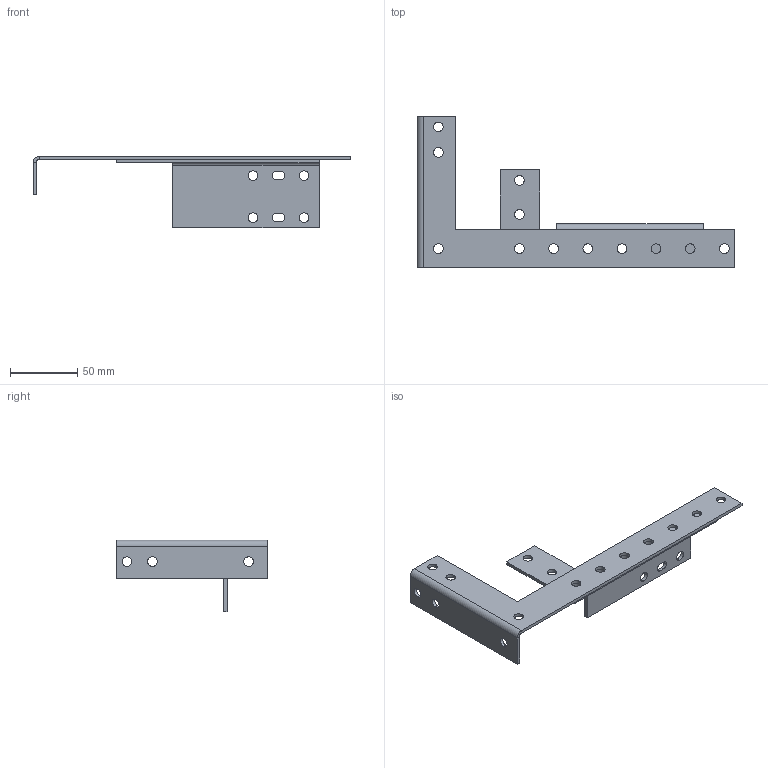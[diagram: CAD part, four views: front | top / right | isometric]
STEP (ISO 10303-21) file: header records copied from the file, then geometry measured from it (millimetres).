
FILE_DESCRIPTION (( 'STEP AP203' ), '1' );
FILE_NAME ('f44t3rdh.STEP', '2010-10-07T16:23:26', ( 'Hoffman User' ), ( 'Hoffman Enclosures' ), 'SwSTEP 2.0', 'SolidWorks 2009', '' );
FILE_SCHEMA (( 'CONFIG_CONTROL_DESIGN' ));
Length unit declared in the file: inch
Products named in the file (3): f44t3rdh; 87745643; 87745640
Assembly tree (2 placements, depth 2):
  f44t3rdh
    87745640
    87745643
Bounding box: 236.47 x 112.73 x 53.26 mm (x, y, z)
Volume: 53842.6 mm3; surface area: 48300.7 mm2
Topology: 2 solids, 2 shells, 88 faces, 236 edges, 152 vertices
Faces by surface type: cylinder 54, plane 34
Entity records: 3191 total; most frequent: DIRECTION 530, CARTESIAN_POINT 481, ORIENTED_EDGE 472, EDGE_CURVE 236, AXIS2_PLACEMENT_3D 201, VERTEX_POINT 152, EDGE_LOOP 138, LINE 128
